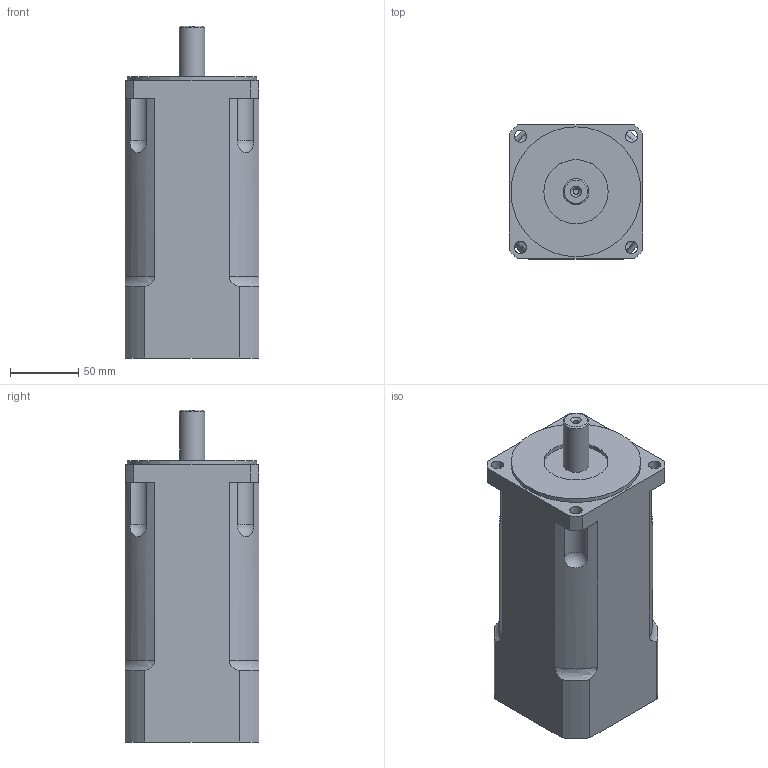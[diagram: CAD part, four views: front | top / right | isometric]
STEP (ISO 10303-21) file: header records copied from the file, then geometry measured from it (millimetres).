
FILE_DESCRIPTION(/* description */ ('Alibre Inc.'),/* implementation_level */ '2;1');
FILE_NAME(/* name */ 'export2',/* time_stamp */ '2013-04-30T09:51:57+02:00',/* author */ (''),/* organization */ (''),/* preprocessor_version */ 'ST-DEVELOPER v12',/* originating_system */ 'Alibre',/* authorisation */ '');
FILE_SCHEMA (('ALIBRE_SCHEMA','CONFIG_CONTROL_DESIGN'));
Length unit declared in the file: centimetre
Products named in the file (4): ID_1; ID_2
Bounding box: 98 x 98 x 243 mm (x, y, z)
Volume: 1855351 mm3; surface area: 106952.4 mm2
Topology: 3 solids, 3 shells, 131 faces, 348 edges, 232 vertices
Faces by surface type: cylinder 73, plane 44, cone 5, torus 4, sphere 4, bspline 1
Full cylindrical faces by diameter (mm): 2.7 x4, 4.134 x1, 9 x4, 19 x1, 20 x5, 22 x2, 47 x1, 95 x1
Entity records: 11499 total; most frequent: CARTESIAN_POINT 3103, DIRECTION 1111, ORIENTED_EDGE 992, EDGE_CURVE 496, AXIS2_PLACEMENT_3D 458, PERSISTANTTOPOLOGYATTRIBUTE 400, VERTEX_POINT 352, REFERENCEDEPENDENTUV 304
